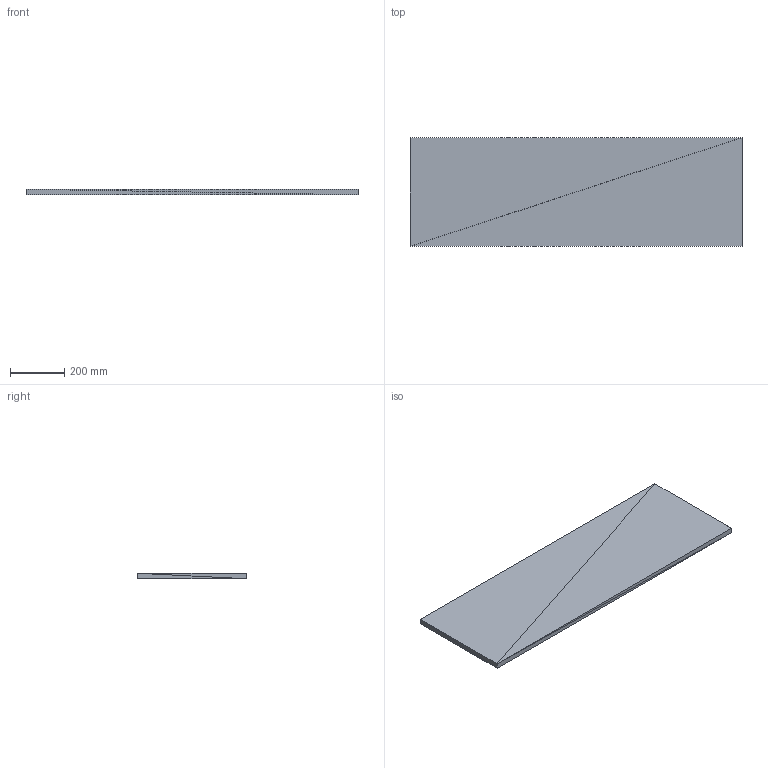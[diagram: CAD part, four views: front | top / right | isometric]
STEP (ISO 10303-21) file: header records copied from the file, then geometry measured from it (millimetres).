
FILE_DESCRIPTION(('ISINAC STEP AP214'),'2;1');
FILE_NAME('ISINAC_R.1220.400_20mm_ADHESIVO','2026-05-03T10:49:19',('ISINAC'),('www.isinac.com'),'ISINAC BIM Generator 1.0','','');
FILE_SCHEMA(('AUTOMOTIVE_DESIGN'));
Length unit declared in the file: millimetre
Products named in the file (1): ISINAC_R.1220.400_20mm_ADHESIVO
Bounding box: 1220 x 400 x 20 mm (x, y, z)
Surface area: 1040800 mm2 (no closed solid volume)
Topology: 0 solids, 12 shells, 12 faces, 36 edges, 36 vertices
Faces by surface type: plane 12
Entity records: 145 total; most frequent: CARTESIAN_POINT 48, DIRECTION 24, POLY_LOOP 12, FACE_OUTER_BOUND 12, AXIS2_PLACEMENT_3D 12, PLANE 12, FACE_SURFACE 12, CLOSED_SHELL 1
